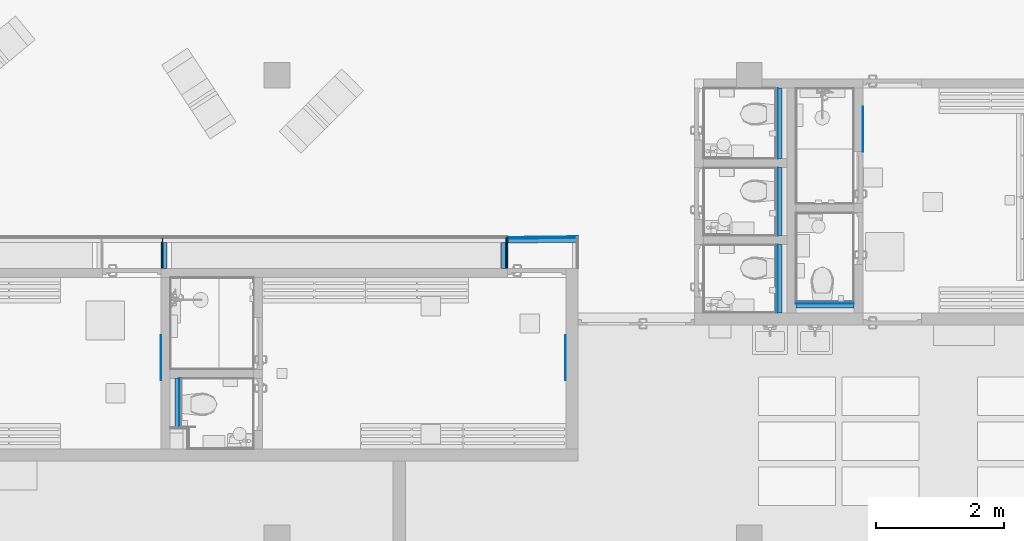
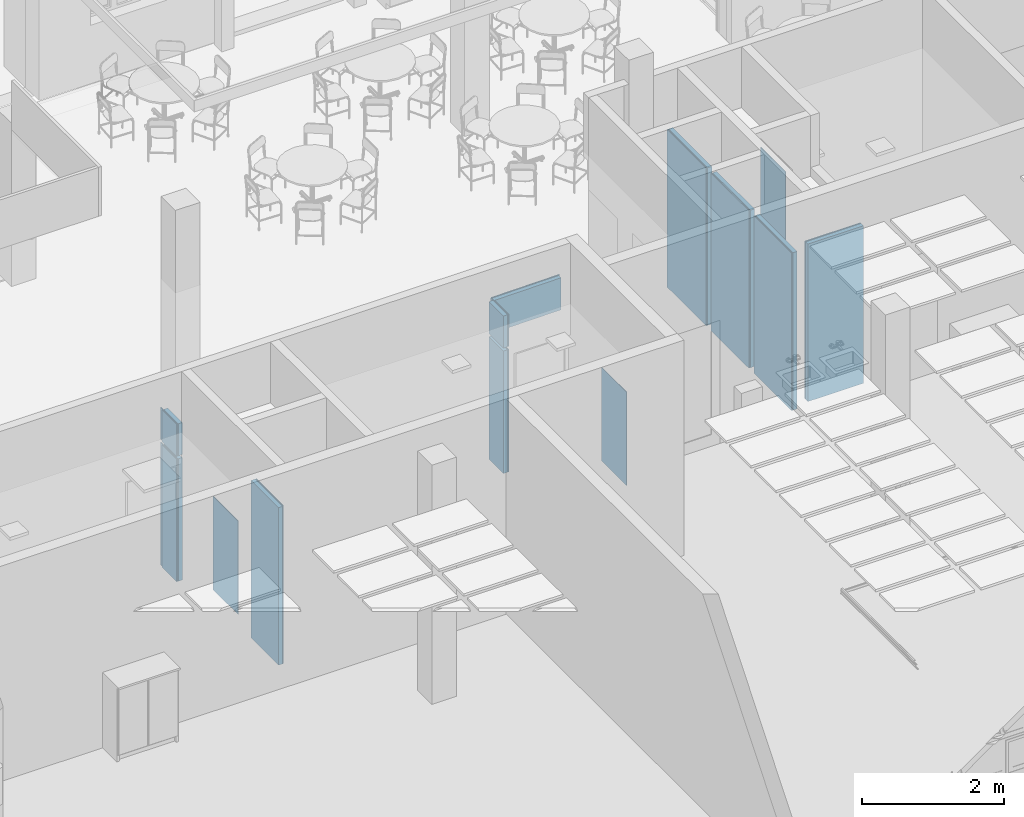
# One storey, part 197 of 301: 24 building element parts, 3 discrete accessories, 8 elements without a shape of their own.
"""IFC2X3 building model written with IfcOpenShell, lengths in millimetres."""

from ifc_helpers import new_model, entity, si_unit, converted_unit, derived_unit, money_unit, direction, frame, origin_with_axes, place, context, subcontext, project, spatial, faceted_brep, material, type_object, element, aggregate, save


model = new_model("IFC2X3")

# Units and contexts
model_context = context("Model", 3, precision=0.01, world=origin_with_axes(), true_north=direction((0.0, 1.0)))
body_context = subcontext(model_context, "Body", "Model", "MODEL_VIEW")
ifc_project = project(units=[si_unit("LENGTHUNIT", "METRE", prefix="MILLI"), si_unit("AREAUNIT", "SQUARE_METRE"), si_unit("VOLUMEUNIT", "CUBIC_METRE"), converted_unit("PLANEANGLEUNIT", "DEGREE", entity("IfcPlaneAngleMeasure", 0.0174532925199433), si_unit("PLANEANGLEUNIT", "RADIAN"), dimensions=[0, 0, 0, 0, 0, 0, 0]), money_unit("EUR"), converted_unit("TIMEUNIT", "Year", entity("IfcTimeMeasure", 31557600.0), si_unit("TIMEUNIT", "SECOND"), dimensions=[0, 0, 1, 0, 0, 0, 0]), si_unit("MASSUNIT", "GRAM", prefix="KILO"), si_unit("THERMODYNAMICTEMPERATUREUNIT", "DEGREE_CELSIUS"), si_unit("LUMINOUSINTENSITYUNIT", "LUMEN"), si_unit("ENERGYUNIT", "JOULE", prefix="MEGA"), derived_unit("THERMALCONDUCTANCEUNIT", [(si_unit("POWERUNIT", "WATT"), 1), (si_unit("LENGTHUNIT", "METRE"), -1), (si_unit("THERMODYNAMICTEMPERATUREUNIT", "KELVIN"), -1)]), derived_unit("SPECIFICHEATCAPACITYUNIT", [(si_unit("ENERGYUNIT", "JOULE"), 1), (si_unit("MASSUNIT", "GRAM", prefix="KILO"), -1), (si_unit("THERMODYNAMICTEMPERATUREUNIT", "KELVIN"), -1)]), derived_unit("MASSDENSITYUNIT", [(si_unit("MASSUNIT", "GRAM", prefix="KILO"), 1), (si_unit("VOLUMEUNIT", "CUBIC_METRE"), -1)])], contexts=[model_context])

# Site, building, storey
site_placement = place(None, frame((0.0, 0.0, 8650.0), z_axis=(0.0, 0.0, 1.0), x_axis=(1.0, 0.0, 0.0)))
site = spatial("IfcSite", under=ifc_project, at=site_placement, Name="43301:001:0844", CompositionType="ELEMENT")
building_placement = place(site_placement, origin_with_axes())
building = spatial("IfcBuilding", under=site, at=building_placement, Name="Kuressaare Ametikooli tuulikute mehaanikute õppekorpus", CompositionType="ELEMENT")
storey_placement = place(building_placement, origin_with_axes())
storey = spatial("IfcBuildingStorey", under=building, at=storey_placement, Name="1.korrus", CompositionType="ELEMENT", Elevation=0.0)

# Discrete accessories
ifc_material_1 = material(Name="GENEERILINE - SISEMINE VOODER")
discrete_accessory_type = type_object("IfcDiscreteAccessoryType", Name="GENEERILINE - SISEMINE VOODER 10")
discrete_accessory_placement = place(storey_placement, frame((127695.2624987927, 23284.06890311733, 500.0), z_axis=(0.0, 0.0, 1.0), x_axis=(-2.083127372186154e-06, -0.9999999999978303, 0.0)))
element("IfcDiscreteAccessory", 1, at=discrete_accessory_placement, inside=storey, type_object=discrete_accessory_type, material=ifc_material_1, Name="P3", context=body_context, shape_type="Brep", body=[
    faceted_brep([(0.0, 0.0, 0.0), (700.0000000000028, 0.0, 0.0), (700.0000000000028, -10.00000000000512, 0.0), (0.0, -10.00000000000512, 0.0), (0.0, 0.0, 1600.0), (700.0000000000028, 0.0, 1600.0), (700.0000000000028, -10.00000000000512, 1600.0), (0.0, -10.00000000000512, 1600.0)], [[[0, 1, 2, 3]], [[4, 5, 1, 0]], [[2, 1, 5, 6]], [[3, 2, 6, 7]], [[4, 0, 3, 7]], [[7, 6, 5, 4]]]),
])
for number, where, z_axis, x_axis, name in (
    (2, (116755.2593855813, 19724.83718902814, 500.0), (0.0, 0.0, 1.0), (2.083127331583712e-06, -0.9999999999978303, 0.0), "P3"),
    (3, (123055.2594674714, 19724.83718902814, 500.0), (0.0, 0.0, 1.0), (2.083127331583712e-06, -0.9999999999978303, 0.0), "P3"),
):
    element("IfcDiscreteAccessory", number, at=place(storey_placement, frame(where, z_axis=z_axis, x_axis=x_axis)), inside=storey, type_object=discrete_accessory_type, material=ifc_material_1, Name=name, context=body_context, shape_type="Brep", body=[
        faceted_brep([(0.0, 0.0, 1600.0), (700.0000000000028, 0.0, 1600.0), (700.0000000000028, 9.999999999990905, 1600.0), (0.0, 9.999999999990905, 1600.0), (0.0, 0.0, 0.0), (700.0000000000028, 0.0, 0.0), (700.0000000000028, 9.999999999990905, 0.0), (0.0, 9.999999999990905, 0.0)], [[[0, 1, 2, 3]], [[4, 5, 1, 0]], [[2, 1, 5, 6]], [[3, 2, 6, 7]], [[4, 0, 3, 7]], [[7, 6, 5, 4]]]),
    ])

# Wall, building element parts
wall_type = type_object("IfcWallType", Name="SS-2.4 92", PredefinedType="NOTDEFINED")
wall_1_placement = place(storey_placement, frame((116765.2601639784, 21264.83724241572, 0.0), z_axis=(0.0, 0.0, 1.0), x_axis=(-1.369512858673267e-07, -0.9999999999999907, 0.0)))
wall_1 = element("IfcWall", 4, at=wall_1_placement, inside=storey, type_object=wall_type, Name="Sisesein")
ifc_material_2 = material(Name="Air Space - Frame")
building_element_part_1_placement = place(wall_1_placement, origin_with_axes())
building_element_part_1 = element("IfcBuildingElementPart", 5, at=building_element_part_1_placement, material=ifc_material_2, Name="Air Space - Frame", context=body_context, shape_type="Brep", body=[
    faceted_brep([(91.99999287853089, 25.99999999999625, 2100.0), (91.99997480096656, 91.99999999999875, 2100.0), (91.99997480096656, 91.99999999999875, 0.0), (91.99999287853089, 25.99999999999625, 0.0), (500.0015362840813, 92.00000000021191, 2100.0), (500.001545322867, 26.00000000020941, 2100.0), (499.9999999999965, 91.99999999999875, 0.0), (499.9999999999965, 25.99999999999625, 0.0)], [[[0, 1, 2, 3]], [[4, 1, 0, 5]], [[1, 4, 6, 2]], [[2, 6, 7, 3]], [[5, 0, 3, 7]], [[4, 5, 7, 6]]]),
    faceted_brep([(500.0015362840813, 92.00000000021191, 2150.0), (91.99997480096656, 91.99999999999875, 2150.0), (91.99997480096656, 91.99999999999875, 2700.0), (499.9999999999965, 91.99999999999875, 2700.0), (91.99999287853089, 25.99999999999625, 2150.0), (500.001545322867, 26.00000000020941, 2150.0), (91.99999287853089, 25.99999999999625, 2700.0), (499.9999999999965, 25.99999999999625, 2700.0)], [[[0, 1, 2, 3]], [[4, 1, 0, 5]], [[1, 4, 6, 2]], [[6, 7, 3, 2]], [[5, 0, 3, 7]], [[4, 5, 7, 6]]]),
])
ifc_material_3 = material(Name="Plywood")
building_element_part_2_placement = place(wall_1_placement, origin_with_axes())
building_element_part_2 = element("IfcBuildingElementPart", 6, at=building_element_part_2_placement, material=ifc_material_3, Name="Plywood", context=body_context, shape_type="Brep", body=[
    faceted_brep([(25.99999643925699, 13.00000000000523, 2100.0), (25.99999287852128, 25.99999999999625, 2100.0), (25.99999287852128, 25.99999999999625, 0.0), (25.99999643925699, 13.00000000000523, 0.0), (500.001545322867, 26.00000000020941, 2100.0), (500.0015471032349, 13.00000000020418, 2100.0), (499.9999999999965, 25.99999999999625, 0.0), (500.0, 12.99999999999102, 0.0)], [[[0, 1, 2, 3]], [[4, 1, 0, 5]], [[1, 4, 6, 2]], [[2, 6, 7, 3]], [[5, 0, 3, 7]], [[4, 5, 7, 6]]]),
    faceted_brep([(500.001545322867, 26.00000000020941, 2150.0), (25.99999287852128, 25.99999999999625, 2150.0), (25.99999287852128, 25.99999999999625, 2700.0), (499.9999999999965, 25.99999999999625, 2700.0), (25.99999643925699, 13.00000000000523, 2150.0), (500.0015471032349, 13.00000000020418, 2150.0), (25.99999643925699, 13.00000000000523, 2700.0), (500.0, 12.99999999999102, 2700.0)], [[[0, 1, 2, 3]], [[4, 1, 0, 5]], [[1, 4, 6, 2]], [[6, 7, 3, 2]], [[5, 0, 3, 7]], [[4, 5, 7, 6]]]),
])
ifc_material_4 = material(Name="Plaster - Gypsum")
building_element_part_3_placement = place(wall_1_placement, origin_with_axes())
building_element_part_3 = element("IfcBuildingElementPart", 7, at=building_element_part_3_placement, material=ifc_material_4, Name="Plaster - Gypsum", context=body_context, shape_type="Brep", body=[
    faceted_brep([(91.9999999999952, 0.0, 2100.0), (91.9999964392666, 13.00000000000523, 2100.0), (91.9999964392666, 13.00000000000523, 0.0), (91.9999999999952, 0.0, 0.0), (500.0015471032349, 13.00000000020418, 2100.0), (500.0015488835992, 2.131628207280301e-10, 2100.0), (500.0, 12.99999999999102, 0.0), (499.9999999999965, 0.0, 0.0)], [[[0, 1, 2, 3]], [[4, 1, 0, 5]], [[1, 4, 6, 2]], [[2, 6, 7, 3]], [[5, 0, 3, 7]], [[4, 5, 7, 6]]]),
    faceted_brep([(500.0015471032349, 13.00000000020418, 2150.0), (91.9999964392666, 13.00000000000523, 2150.0), (91.9999964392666, 13.00000000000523, 2700.0), (500.0, 12.99999999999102, 2700.0), (91.9999999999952, 0.0, 2150.0), (500.0015488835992, 2.131628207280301e-10, 2150.0), (91.9999999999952, 0.0, 2700.0), (499.9999999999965, 0.0, 2700.0)], [[[0, 1, 2, 3]], [[4, 1, 0, 5]], [[1, 4, 6, 2]], [[6, 7, 3, 2]], [[5, 0, 3, 7]], [[4, 5, 7, 6]]]),
])
aggregate(wall_1, [building_element_part_1, building_element_part_2, building_element_part_3])

wall_2_placement = place(storey_placement, frame((122155.260974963, 21264.83798058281, 0.0), z_axis=(0.0, 0.0, 1.0), x_axis=(-1.369512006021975e-07, -0.9999999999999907, 0.0)))
wall_2 = element("IfcWall", 8, at=wall_2_placement, inside=storey, type_object=wall_type, Name="Sisesein")
building_element_part_4_placement = place(wall_2_placement, origin_with_axes())
building_element_part_4 = element("IfcBuildingElementPart", 9, at=building_element_part_4_placement, material=ifc_material_2, Name="Air Space - Frame", context=body_context, shape_type="Brep", body=[
    faceted_brep([(92.00002519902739, -92.00000000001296, 2100.0), (92.00000712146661, -26.00000000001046, 2100.0), (92.00000712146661, -26.00000000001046, 0.0), (92.00002519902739, -92.00000000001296, 0.0), (500.0022906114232, -25.99999999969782, 2100.0), (500.0022996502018, -91.99999999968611, 2100.0), (500.0, -26.00000000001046, 0.0), (500.0, -91.99999999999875, 0.0)], [[[0, 1, 2, 3]], [[4, 1, 0, 5]], [[1, 4, 6, 2]], [[2, 6, 7, 3]], [[5, 0, 3, 7]], [[4, 5, 7, 6]]]),
    faceted_brep([(500.0022906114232, -25.99999999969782, 2150.0), (92.00000712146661, -26.00000000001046, 2150.0), (92.00000712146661, -26.00000000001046, 2700.0), (500.0, -26.00000000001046, 2700.0), (92.00002519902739, -92.00000000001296, 2150.0), (500.0022996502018, -91.99999999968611, 2150.0), (92.00002519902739, -92.00000000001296, 2700.0), (500.0, -91.99999999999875, 2700.0)], [[[0, 1, 2, 3]], [[4, 1, 0, 5]], [[1, 4, 6, 2]], [[6, 7, 3, 2]], [[5, 0, 3, 7]], [[4, 5, 7, 6]]]),
])
building_element_part_5_placement = place(wall_2_placement, origin_with_axes())
building_element_part_5 = element("IfcBuildingElementPart", 10, at=building_element_part_5_placement, material=ifc_material_3, Name="Plywood", context=body_context, shape_type="Brep", body=[
    faceted_brep([(26.00000712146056, -26.00000000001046, 2100.0), (26.0000035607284, -13.00000000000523, 2100.0), (26.0000035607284, -13.00000000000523, 0.0), (26.00000712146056, -26.00000000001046, 0.0), (500.0022888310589, -12.99999999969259, 2100.0), (500.0022906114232, -25.99999999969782, 2100.0), (500.0000000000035, -13.00000000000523, 0.0), (500.0, -26.00000000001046, 0.0)], [[[0, 1, 2, 3]], [[4, 1, 0, 5]], [[1, 4, 6, 2]], [[2, 6, 7, 3]], [[5, 0, 3, 7]], [[4, 5, 7, 6]]]),
    faceted_brep([(500.0022888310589, -12.99999999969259, 2150.0), (26.0000035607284, -13.00000000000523, 2150.0), (26.0000035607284, -13.00000000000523, 2700.0), (500.0000000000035, -13.00000000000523, 2700.0), (26.00000712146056, -26.00000000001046, 2150.0), (500.0022906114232, -25.99999999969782, 2150.0), (26.00000712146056, -26.00000000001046, 2700.0), (500.0, -26.00000000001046, 2700.0)], [[[0, 1, 2, 3]], [[4, 1, 0, 5]], [[1, 4, 6, 2]], [[6, 7, 3, 2]], [[5, 0, 3, 7]], [[4, 5, 7, 6]]]),
])
building_element_part_6_placement = place(wall_2_placement, origin_with_axes())
building_element_part_6 = element("IfcBuildingElementPart", 11, at=building_element_part_6_placement, material=ifc_material_4, Name="Plaster - Gypsum", context=body_context, shape_type="Brep", body=[
    faceted_brep([(26.15454770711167, -13.00000000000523, 2100.0), (13.00000356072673, -13.00000000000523, 2100.0), (13.00000356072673, -13.00000000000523, 0.0), (500.0000000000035, -13.00000000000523, 0.0), (500.0022888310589, -12.99999999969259, 2100.0), (105.1600647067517, -13.00000000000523, 2100.0), (500.0022870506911, 3.126388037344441e-10, 2100.0), (105.0064248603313, 0.0, 2100.0), (26.00090786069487, 0.0, 2100.0), (12.99999999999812, 0.0, 2100.0), (12.99999999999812, 0.0, 0.0), (500.0, 0.0, 0.0)], [[[0, 1, 2, 3, 4, 5]], [[6, 7, 8, 9, 1, 0, 5, 4]], [[1, 9, 10, 2]], [[2, 10, 11, 3]], [[6, 4, 3, 11]], [[9, 8, 7, 6, 11, 10]]]),
    faceted_brep([(500.0022870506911, 3.126388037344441e-10, 2150.0), (105.0064248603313, 0.0, 2150.0), (105.0064248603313, 0.0, 2700.0), (500.0, 0.0, 2700.0), (105.1600647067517, -13.00000000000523, 2150.0), (500.0022888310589, -12.99999999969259, 2150.0), (105.1600647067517, -13.00000000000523, 2700.0), (500.0000000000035, -13.00000000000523, 2700.0)], [[[0, 1, 2, 3]], [[4, 1, 0, 5]], [[1, 4, 6, 2]], [[3, 2, 6, 7]], [[5, 0, 3, 7]], [[4, 5, 7, 6]]]),
    faceted_brep([(26.00090786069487, 0.0, 2150.0), (12.99999999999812, 0.0, 2150.0), (12.99999999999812, 0.0, 2700.0), (26.00090786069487, 0.0, 2700.0), (13.00000356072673, -13.00000000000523, 2150.0), (26.15454770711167, -13.00000000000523, 2150.0), (13.00000356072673, -13.00000000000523, 2700.0), (26.15454770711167, -12.99999999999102, 2700.0)], [[[0, 1, 2, 3]], [[4, 1, 0, 5]], [[1, 4, 6, 2]], [[6, 7, 3, 2]], [[5, 0, 3, 7]], [[4, 5, 7, 6]]]),
])
aggregate(wall_2, [building_element_part_4, building_element_part_5, building_element_part_6])

wall_3_placement = place(storey_placement, frame((117075.2607862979, 19054.83633695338, 0.0), z_axis=(0.0, 0.0, 1.0), x_axis=(3.32916360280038e-07, -0.9999999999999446, 0.0)))
wall_3 = element("IfcWall", 12, at=wall_3_placement, inside=storey, type_object=wall_type, Name="Sisesein")
building_element_part_7_placement = place(wall_3_placement, origin_with_axes())
building_element_part_7 = element("IfcBuildingElementPart", 13, at=building_element_part_7_placement, material=ifc_material_3, Name="Plywood", context=body_context, shape_type="Brep", body=[
    faceted_brep([(772.9982538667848, -25.99999999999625, 2700.0), (772.998258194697, -12.99999999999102, 2700.0), (0.0001058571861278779, -12.99999999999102, 2700.0), (0.0001015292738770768, -25.99999999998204, 2700.0), (772.9982538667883, -25.99999999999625, 0.0), (772.9982581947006, -12.99999999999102, 0.0), (0.0001058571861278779, -12.99999999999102, 0.0), (0.0001015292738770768, -25.99999999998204, 0.0)], [[[0, 1, 2, 3]], [[1, 0, 4, 5]], [[1, 5, 6, 2]], [[2, 6, 7, 3]], [[0, 3, 7, 4]], [[5, 4, 7, 6]]]),
])
building_element_part_8_placement = place(wall_3_placement, origin_with_axes())
building_element_part_8 = element("IfcBuildingElementPart", 14, at=building_element_part_8_placement, material=ifc_material_2, Name="Air Space - Frame", context=body_context, shape_type="Brep", body=[
    faceted_brep([(772.9982318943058, -91.99999999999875, 2700.0), (772.9982538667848, -25.99999999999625, 2700.0), (0.0001015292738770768, -25.99999999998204, 2700.0), (7.955679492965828e-05, -91.99999999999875, 2700.0), (772.9982318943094, -91.99999999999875, 0.0), (772.9982538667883, -25.99999999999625, 0.0), (0.0001015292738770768, -25.99999999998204, 0.0), (7.955679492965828e-05, -91.99999999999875, 0.0)], [[[0, 1, 2, 3]], [[1, 0, 4, 5]], [[1, 5, 6, 2]], [[2, 6, 7, 3]], [[0, 3, 7, 4]], [[5, 4, 7, 6]]]),
])
building_element_part_9_placement = place(wall_3_placement, origin_with_axes())
building_element_part_9 = element("IfcBuildingElementPart", 15, at=building_element_part_9_placement, material=ifc_material_4, Name="Plaster - Gypsum", context=body_context, shape_type="Brep", body=[
    faceted_brep([(759.9982581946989, -12.99999999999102, 2700.0), (759.9982625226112, 0.0, 2700.0), (0.000110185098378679, 0.0, 2700.0), (0.0001058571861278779, -12.99999999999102, 2700.0), (759.9982581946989, -12.99999999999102, 0.0), (759.9982625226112, 0.0, 0.0), (0.000110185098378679, 0.0, 0.0), (0.0001058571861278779, -12.99999999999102, 0.0)], [[[0, 1, 2, 3]], [[1, 0, 4, 5]], [[1, 5, 6, 2]], [[2, 6, 7, 3]], [[0, 3, 7, 4]], [[5, 4, 7, 6]]]),
])
aggregate(wall_3, [building_element_part_7, building_element_part_8, building_element_part_9])

wall_4_placement = place(storey_placement, frame((126335.2605563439, 23574.47014272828, 0.0), z_axis=(0.0, 0.0, 1.0), x_axis=(3.369474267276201e-07, -0.9999999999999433, 0.0)))
wall_4 = element("IfcWall", 16, at=wall_4_placement, inside=storey, type_object=wall_type, Name="Sisesein")
building_element_part_10_placement = place(wall_4_placement, origin_with_axes())
building_element_part_10 = element("IfcBuildingElementPart", 17, at=building_element_part_10_placement, material=ifc_material_2, Name="Air Space - Frame", context=body_context, shape_type="Brep", body=[
    faceted_brep([(1100.000001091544, 25.99964132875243, 2700.0), (1100.000001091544, 25.99964132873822, 0.0), (1100.000014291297, 91.99964132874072, 0.0), (1100.000014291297, 91.99964132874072, 2700.0), (0.4012275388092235, 25.99999999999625, 2700.0), (0.4012275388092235, 25.99999999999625, 0.0), (0.4012497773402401, 91.99999999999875, 0.0), (0.4012497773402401, 91.99999999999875, 2700.0)], [[[0, 1, 2, 3]], [[1, 0, 4, 5]], [[2, 1, 5, 6]], [[2, 6, 7, 3]], [[0, 3, 7, 4]], [[7, 6, 5, 4]]]),
])
building_element_part_11_placement = place(wall_4_placement, origin_with_axes())
building_element_part_11 = element("IfcBuildingElementPart", 18, at=building_element_part_11_placement, material=ifc_material_4, Name="Plaster - Gypsum", context=body_context, shape_type="Brep", body=[
    faceted_brep([(1099.999995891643, -0.0003586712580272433, 2700.0), (1099.999995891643, -0.0003586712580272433, 0.0), (1099.999998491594, 12.9996413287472, 0.0), (1099.999998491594, 12.9996413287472, 2700.0), (0.4012187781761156, 0.0, 2700.0), (0.4012187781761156, 0.0, 0.0), (0.4012231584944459, 13.00000000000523, 0.0), (0.4012231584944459, 13.00000000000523, 2700.0)], [[[0, 1, 2, 3]], [[1, 0, 4, 5]], [[2, 1, 5, 6]], [[2, 6, 7, 3]], [[0, 3, 7, 4]], [[7, 6, 5, 4]]]),
])
building_element_part_12_placement = place(wall_4_placement, origin_with_axes())
building_element_part_12 = element("IfcBuildingElementPart", 19, at=building_element_part_12_placement, material=ifc_material_3, Name="Plywood", context=body_context, shape_type="Brep", body=[
    faceted_brep([(1099.999998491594, 12.9996413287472, 2700.0), (1099.999998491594, 12.9996413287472, 0.0), (1100.000001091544, 25.99964132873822, 0.0), (1100.000001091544, 25.99964132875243, 2700.0), (0.4012231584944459, 13.00000000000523, 2700.0), (0.4012231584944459, 13.00000000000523, 0.0), (0.4012275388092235, 25.99999999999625, 0.0), (0.4012275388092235, 25.99999999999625, 2700.0)], [[[0, 1, 2, 3]], [[1, 0, 4, 5]], [[2, 1, 5, 6]], [[2, 6, 7, 3]], [[0, 3, 7, 4]], [[7, 6, 5, 4]]]),
])
aggregate(wall_4, [building_element_part_10, building_element_part_11, building_element_part_12])

wall_5_placement = place(storey_placement, frame((126335.2605226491, 22474.47014683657, 0.0), z_axis=(0.0, 0.0, 1.0), x_axis=(3.369474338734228e-07, -0.9999999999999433, 0.0)))
wall_5 = element("IfcWall", 20, at=wall_5_placement, inside=storey, type_object=wall_type, Name="Sisesein")
building_element_part_13_placement = place(wall_5_placement, origin_with_axes())
building_element_part_13 = element("IfcBuildingElementPart", 21, at=building_element_part_13_placement, material=ifc_material_3, Name="Plywood", context=body_context, shape_type="Brep", body=[
    faceted_brep([(1200.000153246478, 13.00000535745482, 2700.0), (1200.000153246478, 13.00000535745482, 0.0), (1200.000155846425, 26.00000535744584, 0.0), (1200.000155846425, 26.00000535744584, 2700.0), (140.0000025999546, 12.99999999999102, 2700.0), (140.000002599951, 12.99999999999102, 0.0), (140.0000051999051, 25.99999999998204, 0.0), (140.0000051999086, 25.99999999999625, 2700.0)], [[[0, 1, 2, 3]], [[1, 0, 4, 5]], [[2, 1, 5, 6]], [[2, 6, 7, 3]], [[0, 3, 7, 4]], [[7, 6, 5, 4]]]),
])
building_element_part_14_placement = place(wall_5_placement, origin_with_axes())
building_element_part_14 = element("IfcBuildingElementPart", 22, at=building_element_part_14_placement, material=ifc_material_2, Name="Air Space - Frame", context=body_context, shape_type="Brep", body=[
    faceted_brep([(1200.000155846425, 26.00000535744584, 2700.0), (1200.000155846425, 26.00000535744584, 0.0), (1200.000169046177, 92.00000535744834, 0.0), (1200.000169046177, 92.00000535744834, 2700.0), (140.0000051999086, 25.99999999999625, 2700.0), (140.0000051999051, 25.99999999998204, 0.0), (140.0000183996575, 91.99999999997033, 0.0), (140.000018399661, 91.99999999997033, 2700.0)], [[[0, 1, 2, 3]], [[1, 0, 4, 5]], [[2, 1, 5, 6]], [[2, 6, 7, 3]], [[0, 3, 7, 4]], [[7, 6, 5, 4]]]),
])
building_element_part_15_placement = place(wall_5_placement, origin_with_axes())
building_element_part_15 = element("IfcBuildingElementPart", 23, at=building_element_part_15_placement, material=ifc_material_4, Name="Plaster - Gypsum", context=body_context, shape_type="Brep", body=[
    faceted_brep([(1200.000150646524, 5.35744959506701e-06, 2700.0), (1200.000150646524, 5.35744959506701e-06, 0.0), (1200.000153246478, 13.00000535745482, 0.0), (1200.000153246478, 13.00000535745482, 2700.0), (140.0000000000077, 0.0, 2700.0), (140.0000000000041, 0.0, 0.0), (140.0000025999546, 12.99999999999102, 0.0), (140.0000025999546, 12.99999999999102, 2700.0)], [[[0, 1, 2, 3]], [[1, 0, 4, 5]], [[2, 1, 5, 6]], [[2, 6, 7, 3]], [[0, 3, 7, 4]], [[7, 6, 5, 4]]]),
])
aggregate(wall_5, [building_element_part_13, building_element_part_14, building_element_part_15])

wall_6_placement = place(storey_placement, frame((126335.2609330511, 21274.46999619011, 0.0), z_axis=(0.0, 0.0, 1.0), x_axis=(3.369473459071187e-07, -0.9999999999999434, 0.0)))
wall_6 = element("IfcWall", 24, at=wall_6_placement, inside=storey, type_object=wall_type, Name="Sisesein")
building_element_part_16_placement = place(wall_6_placement, origin_with_axes())
building_element_part_16 = element("IfcBuildingElementPart", 25, at=building_element_part_16_placement, material=ifc_material_2, Name="Air Space - Frame", context=body_context, shape_type="Brep", body=[
    faceted_brep([(1200.000163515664, 25.99999999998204, 2700.0), (1200.000163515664, 25.99999999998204, 0.0), (1200.000185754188, 91.99999999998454, 0.0), (1200.000185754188, 91.99999999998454, 2700.0), (140.0000051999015, 26.00000000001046, 2700.0), (140.000005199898, 26.00000000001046, 0.0), (140.0000183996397, 92.00000000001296, 0.0), (140.0000183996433, 92.00000000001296, 2700.0)], [[[0, 1, 2, 3]], [[1, 0, 4, 5]], [[2, 1, 5, 6]], [[2, 6, 7, 3]], [[0, 3, 7, 4]], [[7, 6, 5, 4]]]),
])
building_element_part_17_placement = place(wall_6_placement, origin_with_axes())
building_element_part_17 = element("IfcBuildingElementPart", 26, at=building_element_part_17_placement, material=ifc_material_3, Name="Plywood", context=body_context, shape_type="Brep", body=[
    faceted_brep([(1200.00015913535, 12.99999999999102, 2700.0), (1200.00015913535, 12.99999999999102, 0.0), (1200.000163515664, 25.99999999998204, 0.0), (1200.000163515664, 25.99999999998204, 2700.0), (140.000002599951, 13.00000000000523, 2700.0), (140.0000025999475, 13.00000000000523, 0.0), (140.000005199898, 26.00000000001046, 0.0), (140.0000051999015, 26.00000000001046, 2700.0)], [[[0, 1, 2, 3]], [[1, 0, 4, 5]], [[2, 1, 5, 6]], [[2, 6, 7, 3]], [[0, 3, 7, 4]], [[7, 6, 5, 4]]]),
])
building_element_part_18_placement = place(wall_6_placement, origin_with_axes())
building_element_part_18 = element("IfcBuildingElementPart", 27, at=building_element_part_18_placement, material=ifc_material_4, Name="Plaster - Gypsum", context=body_context, shape_type="Brep", body=[
    faceted_brep([(1200.000154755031, 0.0, 2700.0), (1200.000154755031, 0.0, 0.0), (1200.00015913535, 12.99999999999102, 0.0), (1200.00015913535, 12.99999999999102, 2700.0), (140.0000000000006, 0.0, 2700.0), (139.999999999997, 0.0, 0.0), (140.0000025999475, 13.00000000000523, 0.0), (140.000002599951, 13.00000000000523, 2700.0)], [[[0, 1, 2, 3]], [[1, 0, 4, 5]], [[2, 1, 5, 6]], [[2, 6, 7, 3]], [[0, 3, 7, 4]], [[7, 6, 5, 4]]]),
])
aggregate(wall_6, [building_element_part_16, building_element_part_17, building_element_part_18])

wall_7_placement = place(storey_placement, frame((127545.2610406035, 20244.46987343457, 0.0), z_axis=(0.0, 0.0, 1.0), x_axis=(-0.99999999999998, 1.999962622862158e-07, 0.0)))
wall_7 = element("IfcWall", 28, at=wall_7_placement, inside=storey, type_object=wall_type, Name="Sisesein")
building_element_part_19_placement = place(wall_7_placement, origin_with_axes())
building_element_part_19 = element("IfcBuildingElementPart", 29, at=building_element_part_19_placement, material=ifc_material_2, Name="Air Space - Frame", context=body_context, shape_type="Brep", body=[
    faceted_brep([(-1.839966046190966e-05, 91.99999999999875, 2700.0), (-5.19990805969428e-06, 25.9999999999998, 2700.0), (899.9999948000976, 25.9999999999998, 2700.0), (899.999981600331, 91.9999999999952, 2700.0), (-1.839966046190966e-05, 91.99999999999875, 0.0), (-5.19990805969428e-06, 25.9999999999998, 0.0), (899.9999948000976, 25.9999999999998, 0.0), (899.999981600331, 91.9999999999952, 0.0)], [[[0, 1, 2, 3]], [[1, 0, 4, 5]], [[1, 5, 6, 2]], [[3, 2, 6, 7]], [[0, 3, 7, 4]], [[5, 4, 7, 6]]]),
])
building_element_part_20_placement = place(wall_7_placement, origin_with_axes())
building_element_part_20 = element("IfcBuildingElementPart", 30, at=building_element_part_20_placement, material=ifc_material_3, Name="Plywood", context=body_context, shape_type="Brep", body=[
    faceted_brep([(-5.19990805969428e-06, 25.9999999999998, 2700.0), (-2.599961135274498e-06, 13.00000000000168, 2700.0), (899.9999974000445, 13.00000000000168, 2700.0), (899.9999948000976, 25.9999999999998, 2700.0), (-5.19990805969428e-06, 25.9999999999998, 0.0), (-2.599961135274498e-06, 12.99999999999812, 0.0), (899.9999974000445, 12.99999999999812, 0.0), (899.9999948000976, 25.9999999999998, 0.0)], [[[0, 1, 2, 3]], [[1, 0, 4, 5]], [[1, 5, 6, 2]], [[3, 2, 6, 7]], [[0, 3, 7, 4]], [[5, 4, 7, 6]]]),
])
building_element_part_21_placement = place(wall_7_placement, origin_with_axes())
building_element_part_21 = element("IfcBuildingElementPart", 31, at=building_element_part_21_placement, material=ifc_material_4, Name="Plaster - Gypsum", context=body_context, shape_type="Brep", body=[
    faceted_brep([(-2.599961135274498e-06, 13.00000000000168, 2700.0), (0.0, 0.0, 2700.0), (899.9999999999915, 0.0, 2700.0), (899.9999974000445, 13.00000000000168, 2700.0), (-2.599961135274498e-06, 12.99999999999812, 0.0), (0.0, 0.0, 0.0), (899.9999999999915, 0.0, 0.0), (899.9999974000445, 12.99999999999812, 0.0)], [[[0, 1, 2, 3]], [[1, 0, 4, 5]], [[1, 5, 6, 2]], [[3, 2, 6, 7]], [[0, 3, 7, 4]], [[5, 4, 7, 6]]]),
])
aggregate(wall_7, [building_element_part_19, building_element_part_20, building_element_part_21])

wall_8_placement = place(storey_placement, frame((122155.2609731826, 21251.83798058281, 2100.0), z_axis=(0.0, 0.0, 1.0), x_axis=(0.9999301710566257, 0.01181748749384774, 0.0)))
wall_8 = element("IfcWall", 32, at=wall_8_placement, inside=storey, type_object=wall_type, Name="Sisesein")
building_element_part_22_placement = place(wall_8_placement, origin_with_axes())
building_element_part_22 = element("IfcBuildingElementPart", 33, at=building_element_part_22_placement, material=ifc_material_4, Name="Plaster - Gypsum", context=body_context, shape_type="Brep", body=[
    faceted_brep([(1099.923739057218, -12.99999999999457, 49.99999999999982), (1100.077377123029, 0.0, 49.99999999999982), (1100.077377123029, 0.0, 600.0000000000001), (1099.923739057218, -12.99999999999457, 600.0000000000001), (0.0, 0.0, 49.99999999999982), (-0.1536398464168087, -12.99999999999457, 49.99999999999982), (0.0, 0.0, 600.0000000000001), (-0.1536398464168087, -12.99999999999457, 600.0000000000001)], [[[0, 1, 2, 3]], [[4, 1, 0, 5]], [[1, 4, 6, 2]], [[3, 2, 6, 7]], [[5, 0, 3, 7]], [[4, 5, 7, 6]]]),
])
building_element_part_23_placement = place(wall_8_placement, origin_with_axes())
building_element_part_23 = element("IfcBuildingElementPart", 34, at=building_element_part_23_placement, material=ifc_material_3, Name="Plywood", context=body_context, shape_type="Brep", body=[
    faceted_brep([(1086.769193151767, -25.99999999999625, 49.99999999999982), (1086.922831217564, -12.99999999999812, 49.99999999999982), (1086.922831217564, -12.99999999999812, 600.0000000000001), (1086.769193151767, -25.99999999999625, 600.0000000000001), (-13.15454770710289, -12.99999999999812, 49.99999999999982), (-13.3081875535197, -25.99999999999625, 49.99999999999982), (-13.15454770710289, -12.99999999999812, 600.0000000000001), (-13.3081875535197, -25.99999999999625, 600.0000000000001)], [[[0, 1, 2, 3]], [[4, 1, 0, 5]], [[1, 4, 6, 2]], [[3, 2, 6, 7]], [[5, 0, 3, 7]], [[4, 5, 7, 6]]]),
])
building_element_part_24_placement = place(wall_8_placement, origin_with_axes())
building_element_part_24 = element("IfcBuildingElementPart", 35, at=building_element_part_24_placement, material=ifc_material_2, Name="Air Space - Frame", context=body_context, shape_type="Brep", body=[
    faceted_brep([(1072.988276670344, -91.99999999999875, 49.99999999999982), (1073.768285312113, -25.99999999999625, 49.99999999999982), (1073.768285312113, -25.99999999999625, 600.0000000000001), (1072.988276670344, -91.99999999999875, 600.0000000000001), (-13.3081875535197, -25.99999999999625, 49.99999999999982), (-14.08820523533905, -91.9999999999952, 49.99999999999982), (-13.3081875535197, -25.99999999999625, 600.0000000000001), (-14.08820523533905, -91.9999999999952, 600.0000000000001)], [[[0, 1, 2, 3]], [[4, 1, 0, 5]], [[1, 4, 6, 2]], [[3, 2, 6, 7]], [[5, 0, 3, 7]], [[4, 5, 7, 6]]]),
])
aggregate(wall_8, [building_element_part_22, building_element_part_23, building_element_part_24])

save(model, "model.ifc")
